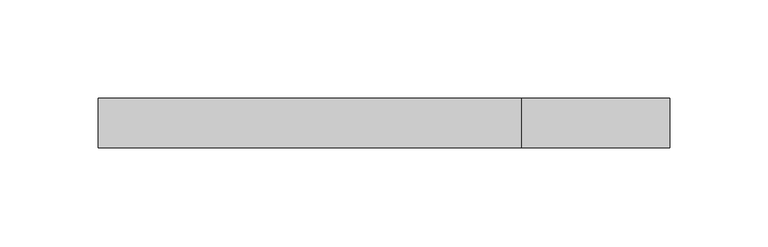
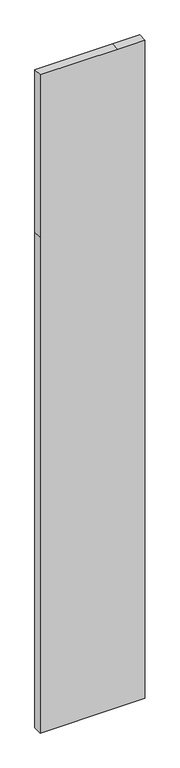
"""IFC4 building model written with IfcOpenShell, lengths in millimetres: plate geometry, Системная панель : С остеклением."""

import ifcopenshell
import ifcopenshell.guid

model = None  # the IFC model being written
_history = None  # IfcOwnerHistory: only IFC2X3 demands one
_inside = {}  # id of a spatial element -> (the spatial element, [elements in it])
_under = {}  # id of a project, library or spatial element -> (it, [spatial elements below it])
_declared = {}  # id of a project -> (the project, [libraries it declares])
_typed = {}  # id of a type object -> (the type object, [elements of that type])
_made_of = {}  # id of a material, layer set ... -> (it, [elements and type objects made of it])


def new_model(schema):
    """Start an empty IFC model of exactly this schema.

    Asked for "IFC4X3", IfcOpenShell would pick the latest addendum, in which some entities
    have other attributes; the version numbers below select the first issue.
    IFC2X3 requires an IfcOwnerHistory on every rooted entity: one is made here for all.
    """
    global model, _history
    if schema == "IFC4X3":
        model = ifcopenshell.file(schema_version=(4, 3, 0, 0))
    else:
        model = ifcopenshell.file(schema=schema)
    _inside.clear()
    _under.clear()
    _declared.clear()
    _typed.clear()
    _made_of.clear()
    _history = None
    if model.schema == "IFC2X3":
        org = make("IfcOrganization", Name="unknown")
        user = make(
            "IfcPersonAndOrganization",
            ThePerson=make("IfcPerson", FamilyName="unknown"),
            TheOrganization=org,
        )
        app = make(
            "IfcApplication",
            ApplicationDeveloper=org,
            Version="unknown",
            ApplicationFullName="unknown",
            ApplicationIdentifier="unknown",
        )
        _history = make(
            "IfcOwnerHistory",
            OwningUser=user,
            OwningApplication=app,
            ChangeAction="ADDED",
            CreationDate=0,
        )
    return model


def make(cls, **values):
    """One entity of the class cls with the attributes given. An attribute that is None is left unset."""
    return model.create_entity(
        cls, **{name: value for name, value in values.items() if value is not None}
    )


def rooted(cls, **values):
    """An entity with a GlobalId (a new one), such as an element, a storey or a relation."""
    return make(cls, GlobalId=ifcopenshell.guid.new(), OwnerHistory=_history, **values)


def si_unit(unit_type, name, prefix=None):
    """IfcSIUnit, for example si_unit("LENGTHUNIT", "METRE", prefix="MILLI")."""
    return make("IfcSIUnit", UnitType=unit_type, Prefix=prefix, Name=name)


def assignment(units):
    """IfcUnitAssignment: the units of a project."""
    return None if units is None else make("IfcUnitAssignment", Units=units)


def point(xyz):
    """IfcCartesianPoint."""
    return None if xyz is None else make("IfcCartesianPoint", Coordinates=xyz)


def direction(xyz):
    """IfcDirection."""
    return None if xyz is None else make("IfcDirection", DirectionRatios=xyz)


def frame(location, z_axis=None, x_axis=None):
    """IfcAxis2Placement3D, a coordinate frame: its origin and axes. An axis left out is left unset."""
    return make(
        "IfcAxis2Placement3D",
        Location=point(location),
        Axis=direction(z_axis),
        RefDirection=direction(x_axis),
    )


def origin():
    """The frame at (0, 0, 0) with its axes left unset."""
    return frame((0.0, 0.0, 0.0))


def place(relative_to, where):
    """IfcLocalPlacement: puts the frame where relative to a parent placement (None: the world)."""
    return make(
        "IfcLocalPlacement", PlacementRelTo=relative_to, RelativePlacement=where
    )


def context(
    kind, dimensions, precision=None, world=None, true_north=None, identifier=None
):
    """IfcGeometricRepresentationContext, for example the 3D "Model" context."""
    return make(
        "IfcGeometricRepresentationContext",
        ContextIdentifier=identifier,
        ContextType=kind,
        CoordinateSpaceDimension=dimensions,
        Precision=precision,
        WorldCoordinateSystem=world,
        TrueNorth=true_north,
    )


def project(units=None, contexts=None):
    """IfcProject with its units and contexts."""
    return rooted(
        "IfcProject",
        Name="project",
        RepresentationContexts=contexts,
        UnitsInContext=assignment(units),
    )


def spatial(cls, under=None, at=None, **own):
    """A site, building, storey or space (cls), placed at a placement, below another one or the project."""
    s = rooted(cls, ObjectPlacement=at, **own)
    if under is not None:
        _under.setdefault(under.id(), (under, []))[1].append(s)
    return s


def polyline(points):
    """IfcPolyline through the points."""
    return make("IfcPolyline", Points=[point(p) for p in points])


def outline(outer, holes=None, kind="AREA"):
    """IfcArbitraryClosedProfileDef: a profile drawn as a closed curve; with holes, ...WithVoids."""
    if holes is None:
        return make("IfcArbitraryClosedProfileDef", ProfileType=kind, OuterCurve=outer)
    return make(
        "IfcArbitraryProfileDefWithVoids",
        ProfileType=kind,
        OuterCurve=outer,
        InnerCurves=holes,
    )


def extrude(swept, where, along, depth):
    """IfcExtrudedAreaSolid: the profile swept, set in the frame where, extruded along a direction by depth."""
    return make(
        "IfcExtrudedAreaSolid",
        SweptArea=swept,
        Position=where,
        ExtrudedDirection=direction(along),
        Depth=depth,
    )


def shape(context_of_items, identifier, shape_type, items):
    """IfcShapeRepresentation: the items that make up one representation, for example the "Body"."""
    return make(
        "IfcShapeRepresentation",
        ContextOfItems=context_of_items,
        RepresentationIdentifier=identifier,
        RepresentationType=shape_type,
        Items=items,
    )


def source(mapping_origin, context_of_items, identifier, shape_type, items):
    """IfcRepresentationMap: a shape defined once, which mapped items show again and again."""
    return make(
        "IfcRepresentationMap",
        MappingOrigin=mapping_origin,
        MappedRepresentation=shape(context_of_items, identifier, shape_type, items),
    )


def transform(
    local_origin,
    x_axis=None,
    y_axis=None,
    z_axis=None,
    scale=None,
    scale2=None,
    scale3=None,
    uniform=True,
):
    """IfcCartesianTransformationOperator3D, or its non-uniform kind. x_axis, y_axis, z_axis: its Axis1, 2, 3."""
    if uniform:
        return make(
            "IfcCartesianTransformationOperator3D",
            Axis1=direction(x_axis),
            Axis2=direction(y_axis),
            LocalOrigin=point(local_origin),
            Scale=scale,
            Axis3=direction(z_axis),
        )
    return make(
        "IfcCartesianTransformationOperator3DnonUniform",
        Axis1=direction(x_axis),
        Axis2=direction(y_axis),
        LocalOrigin=point(local_origin),
        Scale=scale,
        Axis3=direction(z_axis),
        Scale2=scale2,
        Scale3=scale3,
    )


def mapped(mapping_source, mapping_target):
    """IfcMappedItem: shows the shape of a source again, moved by a transform."""
    return make(
        "IfcMappedItem", MappingSource=mapping_source, MappingTarget=mapping_target
    )


def made_of(thing, what):
    """Note that an element or type object is made of a material, layer set ...; save() writes the relation."""
    if what is not None:
        _made_of.setdefault(what.id(), (what, []))[1].append(thing)
    return thing


def element(
    cls,
    number,
    at=None,
    inside=None,
    cuts=None,
    type_object=None,
    material=None,
    context=None,
    identifier="Body",
    shape_type=None,
    held_by="IfcProductDefinitionShape",
    body=None,
    shapes=None,
    **own,
):
    """One element of the class cls, such as IfcWall. Its Tag is "e" and its number.

    at: its placement. inside: the storey or other place that contains it. cuts: it is an
    opening in that element (IfcRelVoidsElement). A single representation is given by context,
    identifier, shape_type and body (its items); several are given by shapes. held_by: the class
    of the entity that holds the representations. save() writes the other relations.
    """
    e = rooted(cls, Tag="e%d" % number, ObjectPlacement=at, **own)
    if body is not None:
        shapes = [shape(context, identifier, shape_type, body)]
    if shapes is not None:
        e.Representation = make(held_by, Representations=shapes)
    if inside is not None:
        _inside.setdefault(inside.id(), (inside, []))[1].append(e)
    if cuts is not None:
        rooted(
            "IfcRelVoidsElement", RelatingBuildingElement=cuts, RelatedOpeningElement=e
        )
    if type_object is not None:
        _typed.setdefault(type_object.id(), (type_object, []))[1].append(e)
    return made_of(e, material)


def aggregate(whole, parts):
    """IfcRelAggregates: a whole, such as a stair, and the parts it consists of."""
    return rooted("IfcRelAggregates", RelatingObject=whole, RelatedObjects=parts)


def save(model, path):
    """Write the relations noted so far, then the file.

    IfcRelAggregates (storeys below a building ...), IfcRelContainedInSpatialStructure (elements
    in a storey), IfcRelDefinesByType, IfcRelAssociatesMaterial and IfcRelDeclares: one each for
    every whole, place, type object, material and project.
    """
    for whole, parts in _under.values():
        aggregate(whole, parts)
    for where, things in _inside.values():
        rooted(
            "IfcRelContainedInSpatialStructure",
            RelatedElements=things,
            RelatingStructure=where,
        )
    for kind, things in _typed.values():
        rooted("IfcRelDefinesByType", RelatedObjects=things, RelatingType=kind)
    for what, things in _made_of.values():
        rooted("IfcRelAssociatesMaterial", RelatedObjects=things, RelatingMaterial=what)
    for by, libraries in _declared.values():
        rooted("IfcRelDeclares", RelatingContext=by, RelatedDefinitions=libraries)
    model.write(path)


def plate_0a329d75(model_context):
    return source(origin(), model_context, "Body", "SweptSolid", [
        extrude(outline(polyline([(0.0, -145.0), (0.0, 70.0), (0.0, 145.0), (1450.0, 145.0), (1925.0, 145.0), (1925.0, 70.0), (1925.0, -145.0), (1450.0, -145.0), (0.0, -145.0)])), frame((0.0, -49.5, 0.0), z_axis=(0.0, 1.0, 0.0), x_axis=(0.0, 0.0, 1.0)), (0.0, 0.0, 1.0), 25.0),
    ])


if __name__ == "__main__":
    model = new_model("IFC4")
    model_context = context("Model", 3, world=origin())
    ifc_project = project(units=[si_unit("LENGTHUNIT", "METRE", prefix="MILLI")], contexts=[model_context])
    site = spatial("IfcSite", under=ifc_project)
    building = spatial("IfcBuilding", under=site)
    placement = place(None, origin())
    plate_shape = plate_0a329d75(model_context)
    element("IfcPlate", 1, ObjectType="Системная панель : С остеклением", at=placement, inside=building, context=model_context, shape_type="MappedRepresentation", body=[
        mapped(plate_shape, transform((0.0, 0.0, 0.0), x_axis=(1.0, 0.0, 0.0), y_axis=(0.0, 1.0, 0.0), z_axis=(0.0, 0.0, 1.0))),
    ])
    save(model, "model.ifc")
